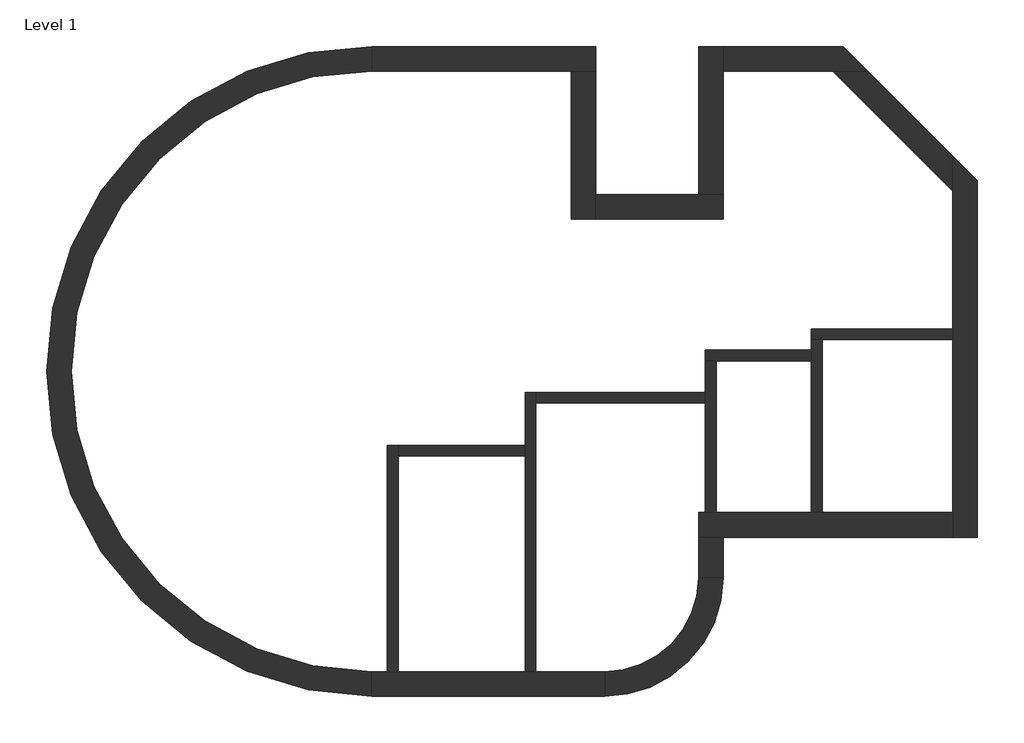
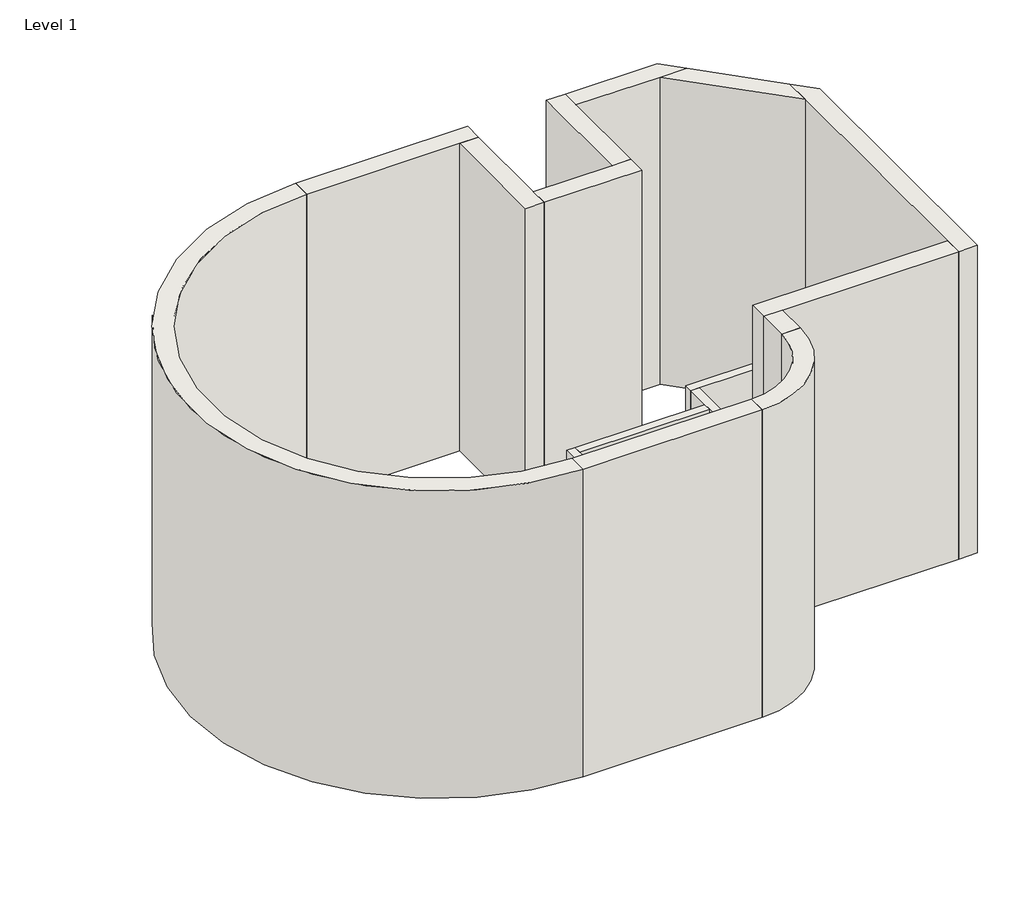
# One storey: 20 walls.
"""IFC4 building model written with IfcOpenShell, lengths in millimetres."""

from ifc_helpers import new_model, si_unit, point, frame_2d, origin, origin_with_axes, place, context, project, spatial, polyline, circle_curve, trimmed, segment, composite_curve, outline, extrude, faceted_brep, element, save

model = new_model("IFC4")

# Units and contexts
model_context = context("Model", 3, world=origin())
ifc_project = project(units=[si_unit("LENGTHUNIT", "METRE", prefix="MILLI")], contexts=[model_context])

# Site, building, storey
site = spatial("IfcSite", under=ifc_project)
building = spatial("IfcBuilding", under=site)
storey = spatial("IfcBuildingStorey", under=building, Name="Level 1", Elevation=0.0)

# Walls
placement = place(None, origin())
element("IfcWall", 1, ObjectType="Exterior - Brick on Mtl. Stud", at=placement, inside=storey, context=model_context, shape_type="Brep", body=[
    faceted_brep([(-4352.987982, 5164.0459322, 0.0), (-1481.200482, 5164.0459322, 0.0), (-1128.775482, 5164.0459322, 0.0), (-1128.775482, 5164.0459322, 6096.0), (-1481.200482, 5164.0459322, 6096.0), (-4352.987982, 5164.0459322, 6096.0), (-4352.987982, 5516.4709322, 0.0), (-4352.987982, 5516.4709322, 6096.0), (-1128.775482, 5516.4709322, 6096.0), (-1128.775482, 5516.4709322, 0.0)], [[[0, 1, 2, 3, 4, 5]], [[6, 7, 8, 9]], [[2, 1, 0, 6, 9]], [[5, 4, 3, 8, 7]], [[0, 5, 7, 6]], [[3, 2, 9, 8]]]),
])
element("IfcWall", 2, ObjectType="Exterior - Brick on Mtl. Stud", at=placement, inside=storey, context=model_context, shape_type="Brep", body=[
    faceted_brep([(-1481.200482, 5164.0459322, 0.0), (-1481.200482, 3030.4459322, 0.0), (-1481.200482, 3030.4459322, 6096.0), (-1481.200482, 5164.0459322, 6096.0), (-1128.775482, 5164.0459322, 0.0), (-1128.775482, 5164.0459322, 6096.0), (-1128.775482, 3382.8709322, 6096.0), (-1128.775482, 3030.4459322, 6096.0), (-1128.775482, 3030.4459322, 0.0), (-1128.775482, 3382.8709322, 0.0)], [[[0, 1, 2, 3]], [[4, 5, 6, 7, 8, 9]], [[1, 0, 4, 9, 8]], [[3, 2, 7, 6, 5]], [[0, 3, 5, 4]], [[2, 1, 8, 7]]]),
])
element("IfcWall", 3, ObjectType="Exterior - Brick on Mtl. Stud", at=placement, inside=storey, context=model_context, shape_type="Brep", body=[
    faceted_brep([(-1128.775482, 3030.4459322, 0.0), (700.024518, 3030.4459322, 0.0), (700.024518, 3030.4459322, 6096.0), (-1128.775482, 3030.4459322, 6096.0), (-1128.775482, 3382.8709322, 0.0), (-1128.775482, 3382.8709322, 6096.0), (347.599518, 3382.8709322, 6096.0), (700.024518, 3382.8709322, 6096.0), (700.024518, 3382.8709322, 0.0), (347.599518, 3382.8709322, 0.0)], [[[0, 1, 2, 3]], [[4, 5, 6, 7, 8, 9]], [[1, 0, 4, 9, 8]], [[3, 2, 7, 6, 5]], [[0, 3, 5, 4]], [[2, 1, 8, 7]]]),
])
element("IfcWall", 4, ObjectType="Exterior - Brick on Mtl. Stud", at=placement, inside=storey, context=model_context, shape_type="Brep", body=[
    faceted_brep([(700.024518, 3382.8709322, 0.0), (700.024518, 5164.0459322, 0.0), (700.024518, 5516.4709322, 0.0), (700.024518, 5516.4709322, 6096.0), (700.024518, 5164.0459322, 6096.0), (700.024518, 3382.8709322, 6096.0), (347.599518, 3382.8709322, 0.0), (347.599518, 3382.8709322, 6096.0), (347.599518, 5516.4709322, 6096.0), (347.599518, 5516.4709322, 0.0)], [[[0, 1, 2, 3, 4, 5]], [[6, 7, 8, 9]], [[2, 1, 0, 6, 9]], [[5, 4, 3, 8, 7]], [[0, 5, 7, 6]], [[3, 2, 9, 8]]]),
])
element("IfcWall", 5, ObjectType="Exterior - Brick on Mtl. Stud", at=placement, inside=storey, context=model_context, shape_type="Brep", body=[
    faceted_brep([(700.024518, 5164.0459322, 0.0), (2279.6224106, 5164.0459322, 0.0), (2778.0266253, 5164.0459322, 0.0), (2778.0266253, 5164.0459322, 6096.0), (2279.6224106, 5164.0459322, 6096.0), (700.024518, 5164.0459322, 6096.0), (700.024518, 5516.4709322, 0.0), (700.024518, 5516.4709322, 6096.0), (2425.6016253, 5516.4709322, 6096.0), (2425.6016253, 5516.4709322, 0.0)], [[[0, 1, 2, 3, 4, 5]], [[6, 7, 8, 9]], [[2, 1, 0, 6, 9]], [[5, 4, 3, 8, 7]], [[0, 5, 7, 6]], [[3, 2, 9, 8]]]),
])
element("IfcWall", 6, ObjectType="Exterior - Brick on Mtl. Stud", at=placement, inside=storey, context=model_context, shape_type="Brep", body=[
    faceted_brep([(4005.199518, 3936.8730396, 0.0), (4005.199518, 3438.4688248, 0.0), (4005.199518, 1455.6459322, 0.0), (4005.199518, 1300.0709322, 0.0), (4005.199518, -1189.1290678, 0.0), (4005.199518, -1541.5540678, 0.0), (4005.199518, -1541.5540678, 6096.0), (4005.199518, -1189.1290678, 6096.0), (4005.199518, 3438.4688248, 6096.0), (4005.199518, 3936.8730396, 6096.0), (4357.624518, 3584.4480396, 0.0), (4357.624518, 3584.4480396, 6096.0), (4357.624518, -1541.5540678, 6096.0), (4357.624518, -1541.5540678, 0.0)], [[[0, 1, 2, 3, 4, 5, 6, 7, 8, 9]], [[10, 11, 12, 13]], [[5, 4, 3, 2, 1, 0, 10, 13]], [[9, 8, 7, 6, 12, 11]], [[6, 5, 13, 12]], [[0, 9, 11, 10]]]),
])
element("IfcWall", 7, ObjectType="Exterior - Brick on Mtl. Stud", at=placement, inside=storey, context=model_context, shape_type="Brep", body=[
    faceted_brep([(4005.199518, -1189.1290678, 0.0), (2125.599518, -1189.1290678, 0.0), (1970.024518, -1189.1290678, 0.0), (601.599518, -1189.1290678, 0.0), (446.024518, -1189.1290678, 0.0), (347.599518, -1189.1290678, 0.0), (347.599518, -1189.1290678, 6096.0), (4005.199518, -1189.1290678, 6096.0), (4005.199518, -1541.5540678, 0.0), (4005.199518, -1541.5540678, 6096.0), (700.024518, -1541.5540678, 6096.0), (347.599518, -1541.5540678, 6096.0), (347.599518, -1541.5540678, 0.0), (700.024518, -1541.5540678, 0.0)], [[[0, 1, 2, 3, 4, 5, 6, 7]], [[8, 9, 10, 11, 12, 13]], [[5, 4, 3, 2, 1, 0, 8, 13, 12]], [[7, 6, 11, 10, 9]], [[0, 7, 9, 8]], [[5, 12, 11, 6]]]),
])
element("IfcWall", 8, ObjectType="Exterior - Brick on Mtl. Stud", at=placement, inside=storey, context=model_context, shape_type="SweptSolid", body=[
    extrude(outline(polyline([(347.599518, -2127.3415678), (347.599518, -1541.5540678), (700.024518, -1541.5540678), (700.024518, -2127.3415678), (347.599518, -2127.3415678)])), origin_with_axes(), (0.0, 0.0, 1.0), 6096.0),
])
element("IfcWall", 9, ObjectType="Exterior - Brick on Mtl. Stud", at=placement, inside=storey, context=model_context, shape_type="Brep", body=[
    faceted_brep([(-1000.187982, -3475.1290678, 0.0), (-1989.200482, -3475.1290678, 0.0), (-2144.775482, -3475.1290678, 0.0), (-3970.400482, -3475.1290678, 0.0), (-4125.975482, -3475.1290678, 0.0), (-4352.987982, -3475.1290678, 0.0), (-4352.987982, -3475.1290678, 6096.0), (-1000.187982, -3475.1290678, 6096.0), (-1000.187982, -3827.5540678, 0.0), (-1000.187982, -3827.5540678, 6096.0), (-4352.987982, -3827.5540678, 6096.0), (-4352.987982, -3827.5540678, 0.0)], [[[0, 1, 2, 3, 4, 5, 6, 7]], [[8, 9, 10, 11]], [[5, 4, 3, 2, 1, 0, 8, 11]], [[6, 5, 11, 10]], [[7, 6, 10, 9]], [[0, 7, 9, 8]]]),
])
element("IfcWall", 10, ObjectType="Exterior - Brick on Mtl. Stud", at=placement, inside=storey, context=model_context, shape_type="SweptSolid", body=[
    extrude(outline(composite_curve([segment(polyline([(-4352.987982, 5516.4709322), (-4352.987982, 5164.0459322)]), True, "CONTINUOUS"), segment(trimmed(circle_curve(frame_2d((-4352.987982, 844.4584322)), 4319.5875), [point((-4352.987982, 5164.0459322))], [point((-4352.987982, -3475.1290678))], True, "CARTESIAN"), True, "CONTINUOUS"), segment(polyline([(-4352.987982, -3475.1290678), (-4352.987982, -3827.5540678)]), True, "CONTINUOUS"), segment(trimmed(circle_curve(frame_2d((-4352.987982, 844.4584322)), 4672.0125), [point((-4352.987982, -3827.5540678))], [point((-4352.987982, 5516.4709322))], False, "CARTESIAN"), True, "CONTINUOUS")], self_intersect=False)), origin_with_axes(), (0.0, 0.0, 1.0), 6096.0),
])
element("IfcWall", 11, ObjectType="Exterior - Brick on Mtl. Stud", at=placement, inside=storey, context=model_context, shape_type="SweptSolid", body=[
    extrude(outline(composite_curve([segment(polyline([(-1000.187982, -3827.5540678), (-1000.187982, -3475.1290678)]), True, "CONTINUOUS"), segment(trimmed(circle_curve(frame_2d((-1000.187982, -2127.3415678)), 1347.7875), [point((-1000.187982, -3475.1290678))], [point((347.599518, -2127.3415678))], True, "CARTESIAN"), True, "CONTINUOUS"), segment(polyline([(347.599518, -2127.3415678), (700.024518, -2127.3415678)]), True, "CONTINUOUS"), segment(trimmed(circle_curve(frame_2d((-1000.187982, -2127.3415678)), 1700.2125), [point((700.024518, -2127.3415678))], [point((-1000.187982, -3827.5540678))], False, "CARTESIAN"), True, "CONTINUOUS")], self_intersect=False)), origin_with_axes(), (0.0, 0.0, 1.0), 6096.0),
])
element("IfcWall", 12, ObjectType="Exterior - Brick on Mtl. Stud", at=placement, inside=storey, context=model_context, shape_type="SweptSolid", body=[
    extrude(outline(polyline([(4005.199518, 3438.4688248), (2279.6224106, 5164.0459322), (2778.0266253, 5164.0459322), (4005.199518, 3936.8730396), (4005.199518, 3438.4688248)])), origin_with_axes(), (0.0, 0.0, 1.0), 6096.0),
])
element("IfcWall", 13, ObjectType="Interior - 6 1/8\" Partition (2-hr)", at=placement, inside=storey, context=model_context, shape_type="Brep", body=[
    faceted_brep([(4005.199518, 1455.6459322, 0.0), (1970.024518, 1455.6459322, 0.0), (1970.024518, 1455.6459322, 3048.0), (4005.199518, 1455.6459322, 3048.0), (4005.199518, 1300.0709322, 0.0), (4005.199518, 1300.0709322, 3048.0), (2125.599518, 1300.0709322, 3048.0), (1970.024518, 1300.0709322, 3048.0), (1970.024518, 1300.0709322, 0.0), (2125.599518, 1300.0709322, 0.0)], [[[0, 1, 2, 3]], [[4, 5, 6, 7, 8, 9]], [[1, 0, 4, 9, 8]], [[3, 2, 7, 6, 5]], [[0, 3, 5, 4]], [[2, 1, 8, 7]]]),
])
element("IfcWall", 14, ObjectType="Interior - 6 1/8\" Partition (2-hr)", at=placement, inside=storey, context=model_context, shape_type="Brep", body=[
    faceted_brep([(1970.024518, 1300.0709322, 0.0), (1970.024518, 1150.8459322, 0.0), (1970.024518, 995.2709322, 0.0), (1970.024518, -1189.1290678, 0.0), (1970.024518, -1189.1290678, 3048.0), (1970.024518, 995.2709322, 3048.0), (1970.024518, 1150.8459322, 3048.0), (1970.024518, 1300.0709322, 3048.0), (2125.599518, 1300.0709322, 0.0), (2125.599518, 1300.0709322, 3048.0), (2125.599518, -1189.1290678, 3048.0), (2125.599518, -1189.1290678, 0.0)], [[[0, 1, 2, 3, 4, 5, 6, 7]], [[8, 9, 10, 11]], [[3, 2, 1, 0, 8, 11]], [[7, 6, 5, 4, 10, 9]], [[0, 7, 9, 8]], [[4, 3, 11, 10]]]),
])
element("IfcWall", 15, ObjectType="Interior - 6 1/8\" Partition (2-hr)", at=placement, inside=storey, context=model_context, shape_type="Brep", body=[
    faceted_brep([(1970.024518, 1150.8459322, 0.0), (446.024518, 1150.8459322, 0.0), (446.024518, 1150.8459322, 3048.0), (1970.024518, 1150.8459322, 3048.0), (1970.024518, 995.2709322, 0.0), (1970.024518, 995.2709322, 3048.0), (601.599518, 995.2709322, 3048.0), (446.024518, 995.2709322, 3048.0), (446.024518, 995.2709322, 0.0), (601.599518, 995.2709322, 0.0)], [[[0, 1, 2, 3]], [[4, 5, 6, 7, 8, 9]], [[1, 0, 4, 9, 8]], [[3, 2, 7, 6, 5]], [[0, 3, 5, 4]], [[2, 1, 8, 7]]]),
])
element("IfcWall", 16, ObjectType="Interior - 6 1/8\" Partition (2-hr)", at=placement, inside=storey, context=model_context, shape_type="Brep", body=[
    faceted_brep([(446.024518, 995.2709322, 0.0), (446.024518, 541.2459322, 0.0), (446.024518, 385.6709322, 0.0), (446.024518, -1189.1290678, 0.0), (446.024518, -1189.1290678, 3048.0), (446.024518, 385.6709322, 3048.0), (446.024518, 541.2459322, 3048.0), (446.024518, 995.2709322, 3048.0), (601.599518, 995.2709322, 0.0), (601.599518, 995.2709322, 3048.0), (601.599518, -1189.1290678, 3048.0), (601.599518, -1189.1290678, 0.0)], [[[0, 1, 2, 3, 4, 5, 6, 7]], [[8, 9, 10, 11]], [[3, 2, 1, 0, 8, 11]], [[7, 6, 5, 4, 10, 9]], [[0, 7, 9, 8]], [[4, 3, 11, 10]]]),
])
element("IfcWall", 17, ObjectType="Interior - 6 1/8\" Partition (2-hr)", at=placement, inside=storey, context=model_context, shape_type="Brep", body=[
    faceted_brep([(-1989.200482, -3475.1290678, 0.0), (-1989.200482, 385.6709322, 0.0), (-1989.200482, 541.2459322, 0.0), (-1989.200482, 541.2459322, 3048.0), (-1989.200482, 385.6709322, 3048.0), (-1989.200482, -3475.1290678, 3048.0), (-2144.775482, -3475.1290678, 0.0), (-2144.775482, -3475.1290678, 3048.0), (-2144.775482, -376.3290678, 3048.0), (-2144.775482, -220.7540678, 3048.0), (-2144.775482, 541.2459322, 3048.0), (-2144.775482, 541.2459322, 0.0), (-2144.775482, -220.7540678, 0.0), (-2144.775482, -376.3290678, 0.0)], [[[0, 1, 2, 3, 4, 5]], [[6, 7, 8, 9, 10, 11, 12, 13]], [[2, 1, 0, 6, 13, 12, 11]], [[5, 4, 3, 10, 9, 8, 7]], [[0, 5, 7, 6]], [[3, 2, 11, 10]]]),
])
element("IfcWall", 18, ObjectType="Interior - 6 1/8\" Partition (2-hr)", at=placement, inside=storey, context=model_context, shape_type="SweptSolid", body=[
    extrude(outline(polyline([(446.024518, 385.6709322), (-1989.200482, 385.6709322), (-1989.200482, 541.2459322), (446.024518, 541.2459322), (446.024518, 385.6709322)])), origin_with_axes(), (0.0, 0.0, 1.0), 3048.0),
])
element("IfcWall", 19, ObjectType="Interior - 6 1/8\" Partition (2-hr)", at=placement, inside=storey, context=model_context, shape_type="Brep", body=[
    faceted_brep([(-3970.400482, -3475.1290678, 0.0), (-3970.400482, -376.3290678, 0.0), (-3970.400482, -220.7540678, 0.0), (-3970.400482, -220.7540678, 3048.0), (-3970.400482, -376.3290678, 3048.0), (-3970.400482, -3475.1290678, 3048.0), (-4125.975482, -3475.1290678, 0.0), (-4125.975482, -3475.1290678, 3048.0), (-4125.975482, -220.7540678, 3048.0), (-4125.975482, -220.7540678, 0.0)], [[[0, 1, 2, 3, 4, 5]], [[6, 7, 8, 9]], [[2, 1, 0, 6, 9]], [[5, 4, 3, 8, 7]], [[0, 5, 7, 6]], [[3, 2, 9, 8]]]),
])
element("IfcWall", 20, ObjectType="Interior - 6 1/8\" Partition (2-hr)", at=placement, inside=storey, context=model_context, shape_type="SweptSolid", body=[
    extrude(outline(polyline([(-2144.775482, -376.3290678), (-3970.400482, -376.3290678), (-3970.400482, -220.7540678), (-2144.775482, -220.7540678), (-2144.775482, -376.3290678)])), origin_with_axes(), (0.0, 0.0, 1.0), 3048.0),
])

save(model, "model.ifc")
